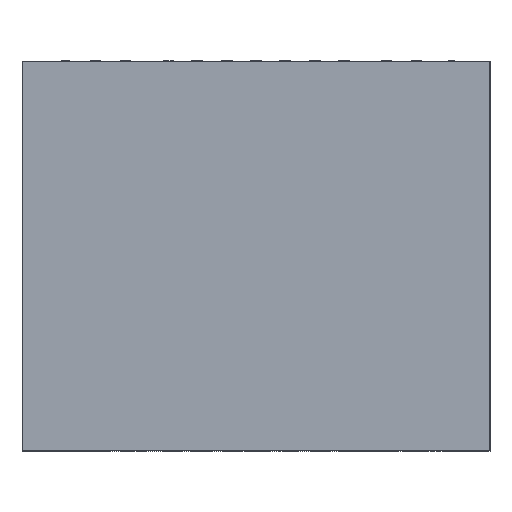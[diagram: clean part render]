
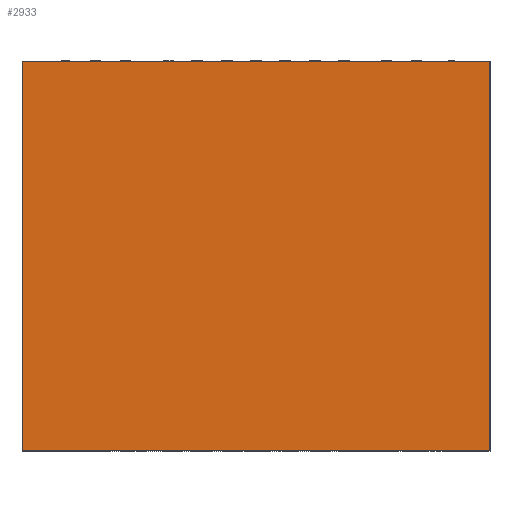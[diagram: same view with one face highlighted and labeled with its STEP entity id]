
A CAD part, front view. The second image highlights one B-rep face of the part: STEP entity #2933.
In plain terms, the highlighted planar face has unit normal (0, -1, 0).
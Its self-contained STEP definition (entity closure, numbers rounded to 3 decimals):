
#163 = EDGE_CURVE ( 'NONE', #1668, #2911, #519, .T. ) ;
#164 = DIRECTION ( 'NONE',  ( -1., 0., 0. ) ) ;
#251 = CARTESIAN_POINT ( 'NONE',  ( -15.712, -18.701, -2.749 ) ) ;
#304 = LINE ( 'NONE', #2724, #3319 ) ;
#409 = CARTESIAN_POINT ( 'NONE',  ( -15.712, -18.701, -2.749 ) ) ;
#422 = VERTEX_POINT ( 'NONE', #2603 ) ;
#519 = LINE ( 'NONE', #251, #1193 ) ;
#700 = ORIENTED_EDGE ( 'NONE', *, *, #1026, .F. ) ;
#754 = DIRECTION ( 'NONE',  ( 0., 0., 1. ) ) ;
#761 = CARTESIAN_POINT ( 'NONE',  ( 19.086, -18.701, -2.749 ) ) ;
#847 = DIRECTION ( 'NONE',  ( 0., 0., 1. ) ) ;
#940 = LINE ( 'NONE', #3391, #2154 ) ;
#1026 = EDGE_CURVE ( 'NONE', #422, #4014, #304, .T. ) ;
#1193 = VECTOR ( 'NONE', #847, 1000. ) ;
#1342 = DIRECTION ( 'NONE',  ( 1., 0., 0. ) ) ;
#1668 = VERTEX_POINT ( 'NONE', #409 ) ;
#2119 = EDGE_CURVE ( 'NONE', #2911, #422, #940, .T. ) ;
#2137 = CARTESIAN_POINT ( 'NONE',  ( -15.712, -18.701, 26.207 ) ) ;
#2154 = VECTOR ( 'NONE', #1342, 1000. ) ;
#2186 = PLANE ( 'NONE',  #4331 ) ;
#2263 = EDGE_LOOP ( 'NONE', ( #2797, #2290, #700, #3348 ) ) ;
#2290 = ORIENTED_EDGE ( 'NONE', *, *, #4183, .F. ) ;
#2423 = DIRECTION ( 'NONE',  ( 0., 1., 0. ) ) ;
#2603 = CARTESIAN_POINT ( 'NONE',  ( 19.086, -18.701, 26.207 ) ) ;
#2724 = CARTESIAN_POINT ( 'NONE',  ( 19.086, -18.701, -2.749 ) ) ;
#2797 = ORIENTED_EDGE ( 'NONE', *, *, #163, .F. ) ;
#2911 = VERTEX_POINT ( 'NONE', #3451 ) ;
#2933 = ADVANCED_FACE ( 'NONE', ( #3844 ), #2186, .F. ) ;
#3137 = LINE ( 'NONE', #4120, #4142 ) ;
#3319 = VECTOR ( 'NONE', #4321, 1000. ) ;
#3348 = ORIENTED_EDGE ( 'NONE', *, *, #2119, .F. ) ;
#3391 = CARTESIAN_POINT ( 'NONE',  ( -15.712, -18.701, 26.207 ) ) ;
#3451 = CARTESIAN_POINT ( 'NONE',  ( -15.712, -18.701, 26.207 ) ) ;
#3844 = FACE_OUTER_BOUND ( 'NONE', #2263, .T. ) ;
#4014 = VERTEX_POINT ( 'NONE', #761 ) ;
#4120 = CARTESIAN_POINT ( 'NONE',  ( -15.712, -18.701, -2.749 ) ) ;
#4142 = VECTOR ( 'NONE', #164, 1000. ) ;
#4183 = EDGE_CURVE ( 'NONE', #4014, #1668, #3137, .T. ) ;
#4321 = DIRECTION ( 'NONE',  ( 0., 0., -1. ) ) ;
#4331 = AXIS2_PLACEMENT_3D ( 'NONE', #2137, #2423, #754 ) ;
